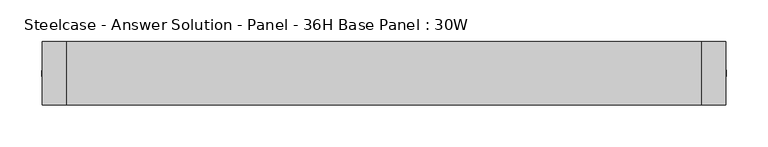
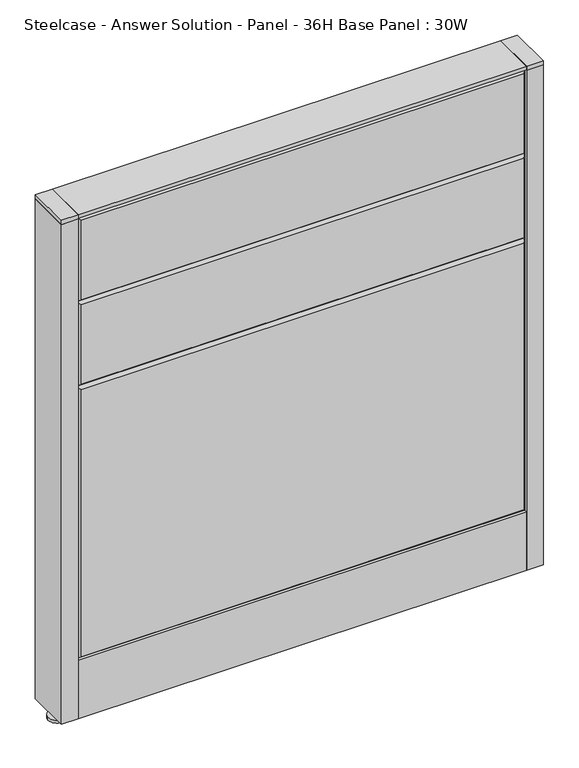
"""IFC4 building model written with IfcOpenShell, lengths in millimetres: furniture geometry, Steelcase - Answer Solution - Panel - 36H Base Panel : 30W."""

from ifc_helpers import new_model, si_unit, point, frame, frame_2d, origin, place, context, project, spatial, polyline, circle_curve, trimmed, segment, composite_curve, outline, extrude, faceted_brep, source, transform, mapped, element, save


def steelcase_answer_solution_panel_36h_base_panel_30w_d155ec85(model_context):
    return source(origin(), model_context, "Body", "SolidModel", [
        extrude(outline(composite_curve([segment(trimmed(circle_curve(frame_2d((395.224, 0.0320214)), 5.08), [point((400.304, 0.0320214))], [point((390.144, 0.0320214))], False, "CARTESIAN"), True, "CONTINUOUS"), segment(trimmed(circle_curve(frame_2d((395.224, 0.0320214)), 5.08), [point((390.144, 0.0320214))], [point((400.304, 0.0320214))], False, "CARTESIAN"), True, "CONTINUOUS")], self_intersect=False)), frame((0.0, 0.0, 5.0799671), z_axis=(0.0, 0.0, 1.0), x_axis=(1.0, 0.0, 0.0)), (0.0, 0.0, 1.0), 10.414),
        extrude(outline(composite_curve([segment(trimmed(circle_curve(frame_2d((395.224, 0.0320214)), 15.24), [point((410.464, 0.0320214))], [point((379.984, 0.0320214))], False, "CARTESIAN"), True, "CONTINUOUS"), segment(trimmed(circle_curve(frame_2d((395.224, 0.0320214)), 15.24), [point((379.984, 0.0320214))], [point((410.464, 0.0320214))], False, "CARTESIAN"), True, "CONTINUOUS")], self_intersect=False)), frame((0.0, 0.0, -3.29e-05), z_axis=(0.0, 0.0, 1.0), x_axis=(1.0, 0.0, 0.0)), (0.0, 0.0, 1.0), 5.08),
        extrude(outline(polyline([(409.575, 38.1320408), (409.575, -38.0679592), (381.0, -38.0679592), (381.0, 38.1320408), (409.575, 38.1320408)])), frame((0.0, 0.0, 913.4348), z_axis=(0.0, 0.0, 1.0), x_axis=(1.0, 0.0, 0.0)), (0.0, 0.0, 1.0), 7.3151671),
        extrude(outline(polyline([(409.575, 38.1320408), (409.575, -38.0679592), (381.0, -38.0679592), (381.0, 38.1320408), (409.575, 38.1320408)])), frame((0.0, 0.0, 15.4939671), z_axis=(0.0, 0.0, 1.0), x_axis=(1.0, 0.0, 0.0)), (0.0, 0.0, 1.0), 897.9408329),
        extrude(outline(composite_curve([segment(trimmed(circle_curve(frame_2d((-395.224, -0.0320214)), 5.08), [point((-400.304, -0.0320214))], [point((-390.144, -0.0320214))], False, "CARTESIAN"), True, "CONTINUOUS"), segment(trimmed(circle_curve(frame_2d((-395.224, -0.0320214)), 5.08), [point((-390.144, -0.0320214))], [point((-400.304, -0.0320214))], False, "CARTESIAN"), True, "CONTINUOUS")], self_intersect=False)), frame((0.0, 0.0, 5.0799671), z_axis=(0.0, 0.0, 1.0), x_axis=(1.0, 0.0, 0.0)), (0.0, 0.0, 1.0), 10.414),
        extrude(outline(composite_curve([segment(trimmed(circle_curve(frame_2d((-395.224, -0.0320214)), 15.24), [point((-410.464, -0.0320214))], [point((-379.984, -0.0320214))], False, "CARTESIAN"), True, "CONTINUOUS"), segment(trimmed(circle_curve(frame_2d((-395.224, -0.0320214)), 15.24), [point((-379.984, -0.0320214))], [point((-410.464, -0.0320214))], False, "CARTESIAN"), True, "CONTINUOUS")], self_intersect=False)), frame((0.0, 0.0, -3.29e-05), z_axis=(0.0, 0.0, 1.0), x_axis=(1.0, 0.0, 0.0)), (0.0, 0.0, 1.0), 5.08),
        extrude(outline(polyline([(-409.575, -38.1320408), (-409.575, 38.0679592), (-381.0, 38.0679592), (-381.0, -38.1320408), (-409.575, -38.1320408)])), frame((0.0, 0.0, 913.4348), z_axis=(0.0, 0.0, 1.0), x_axis=(1.0, 0.0, 0.0)), (0.0, 0.0, 1.0), 7.3151671),
        extrude(outline(polyline([(-409.575, -38.1320408), (-409.575, 38.0679592), (-381.0, 38.0679592), (-381.0, -38.1320408), (-409.575, -38.1320408)])), frame((0.0, 0.0, 15.4939671), z_axis=(0.0, 0.0, 1.0), x_axis=(1.0, 0.0, 0.0)), (0.0, 0.0, 1.0), 897.9408329),
        faceted_brep([(376.174, 38.1635011, 909.574), (376.174, 38.1635011, 766.826), (-376.174, 38.1635011, 766.826), (-376.174, 38.1635011, 909.574), (381.0, 33.3375011, 914.4), (-381.0, 33.3375011, 914.4), (-381.0, 33.3375011, 762.0), (381.0, 33.3375011, 762.0)], [[[0, 1, 2, 3]], [[4, 5, 6, 7]], [[4, 0, 3, 5]], [[5, 3, 2, 6]], [[6, 2, 1, 7]], [[7, 1, 0, 4]]]),
        faceted_brep([(376.174, 38.1635011, 757.174), (376.174, 38.1635011, 614.426), (-376.174, 38.1635011, 614.426), (-376.174, 38.1635011, 757.174), (381.0, 33.3375011, 762.0), (-381.0, 33.3375011, 762.0), (-381.0, 33.3375011, 609.6), (381.0, 33.3375011, 609.6)], [[[0, 1, 2, 3]], [[4, 5, 6, 7]], [[4, 0, 3, 5]], [[5, 3, 2, 6]], [[6, 2, 1, 7]], [[7, 1, 0, 4]]]),
        faceted_brep([(376.174, 38.1635011, 604.774), (376.174, 38.1635011, 125.476), (-376.174, 38.1635011, 125.476), (-376.174, 38.1635011, 604.774), (381.0, 33.3375011, 609.6), (-381.0, 33.3375011, 609.6), (-381.0, 33.3375011, 120.65), (381.0, 33.3375011, 120.65)], [[[0, 1, 2, 3]], [[4, 5, 6, 7]], [[4, 0, 3, 5]], [[5, 3, 2, 6]], [[6, 2, 1, 7]], [[7, 1, 0, 4]]]),
        faceted_brep([(376.174, -38.1635011, 909.574), (-376.174, -38.1635011, 909.574), (-376.174, -38.1635011, 766.826), (376.174, -38.1635011, 766.826), (381.0, -33.3375011, 914.4), (381.0, -33.3375011, 762.0), (-381.0, -33.3375011, 762.0), (-381.0, -33.3375011, 914.4)], [[[0, 1, 2, 3]], [[4, 5, 6, 7]], [[4, 7, 1, 0]], [[7, 6, 2, 1]], [[6, 5, 3, 2]], [[5, 4, 0, 3]]]),
        faceted_brep([(376.174, -38.1635011, 757.174), (-376.174, -38.1635011, 757.174), (-376.174, -38.1635011, 614.426), (376.174, -38.1635011, 614.426), (381.0, -33.3375011, 762.0), (381.0, -33.3375011, 609.6), (-381.0, -33.3375011, 609.6), (-381.0, -33.3375011, 762.0)], [[[0, 1, 2, 3]], [[4, 5, 6, 7]], [[4, 7, 1, 0]], [[7, 6, 2, 1]], [[6, 5, 3, 2]], [[5, 4, 0, 3]]]),
        faceted_brep([(376.174, -38.1635011, 604.774), (-376.174, -38.1635011, 604.774), (-376.174, -38.1635011, 125.476), (376.174, -38.1635011, 125.476), (381.0, -33.3375011, 609.6), (381.0, -33.3375011, 120.65), (-381.0, -33.3375011, 120.65), (-381.0, -33.3375011, 609.6)], [[[0, 1, 2, 3]], [[4, 5, 6, 7]], [[4, 7, 1, 0]], [[7, 6, 2, 1]], [[6, 5, 3, 2]], [[5, 4, 0, 3]]]),
        extrude(outline(polyline([(381.0, 38.1000194), (381.0, -38.1000194), (-381.0, -38.1000194), (-381.0, 38.1000194), (381.0, 38.1000194)])), frame((0.0, 0.0, 914.4), z_axis=(0.0, 0.0, 1.0), x_axis=(1.0, 0.0, 0.0)), (0.0, 0.0, 1.0), 6.35),
        extrude(outline(polyline([(37.3075215, 119.8575157), (25.4000011, 119.8575157), (25.4000011, 120.65), (38.1000194, 120.65), (38.1000194, 15.494), (37.3075215, 15.494), (37.3075215, 119.8575157)])), frame((-381.0, 0.0, 0.0), z_axis=(1.0, 0.0, 0.0), x_axis=(0.0, 1.0, 0.0)), (0.0, 0.0, 1.0), 762.0),
        extrude(outline(polyline([(-37.3075215, 119.8575157), (-37.3075215, 15.494), (-38.1000194, 15.494), (-38.1000194, 120.65), (-25.4000011, 120.65), (-25.4000011, 119.8575157), (-37.3075215, 119.8575157)])), frame((-381.0, 0.0, 0.0), z_axis=(1.0, 0.0, 0.0), x_axis=(0.0, 1.0, 0.0)), (0.0, 0.0, 1.0), 762.0),
    ])


if __name__ == "__main__":
    model = new_model("IFC4")
    model_context = context("Model", 3, world=origin())
    ifc_project = project(units=[si_unit("LENGTHUNIT", "METRE", prefix="MILLI")], contexts=[model_context])
    site = spatial("IfcSite", under=ifc_project)
    building = spatial("IfcBuilding", under=site)
    placement = place(None, origin())
    steelcase_answer_solution_panel_36h_base_panel_30w_shape = steelcase_answer_solution_panel_36h_base_panel_30w_d155ec85(model_context)
    element("IfcFurniture", 1, ObjectType="Steelcase - Answer Solution - Panel - 36H Base Panel : 30W", at=placement, inside=building, context=model_context, shape_type="MappedRepresentation", body=[
        mapped(steelcase_answer_solution_panel_36h_base_panel_30w_shape, transform((0.0, 0.0, 0.0), x_axis=(1.0, 0.0, 0.0), y_axis=(0.0, 1.0, 0.0), z_axis=(0.0, 0.0, 1.0))),
    ])
    save(model, "model.ifc")
